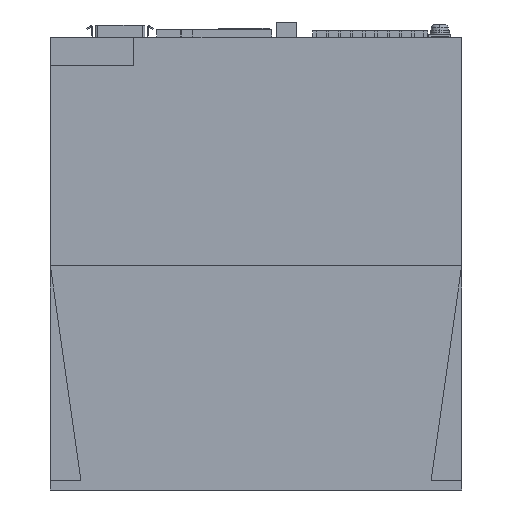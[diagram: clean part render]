
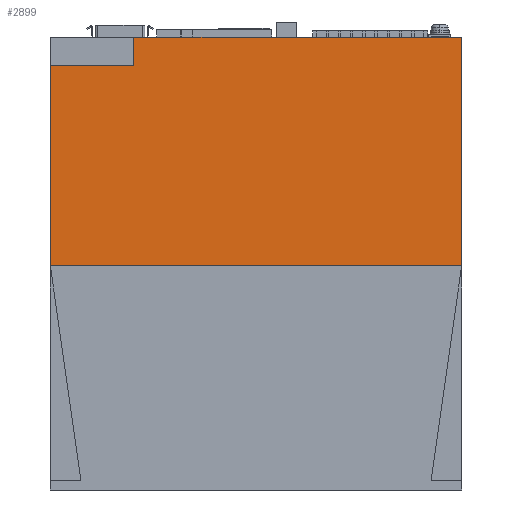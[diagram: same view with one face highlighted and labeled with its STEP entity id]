
A CAD part, left-side view. The second image highlights one B-rep face of the part: STEP entity #2899.
In plain terms, the highlighted planar face has unit normal (-1, 0, 0).
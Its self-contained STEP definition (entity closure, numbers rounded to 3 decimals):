
#1289=DIRECTION('',(0.,-1.,0.));
#1290=VECTOR('',#1289,133.9);
#1291=CARTESIAN_POINT('',(-35.,49.9,185.));
#1292=LINE('',#1291,#1290);
#1609=DIRECTION('',(0.,0.,1.));
#1610=VECTOR('',#1609,93.5);
#1611=CARTESIAN_POINT('',(-35.,-84.,91.5));
#1612=LINE('',#1611,#1610);
#1633=DIRECTION('',(0.,-1.,0.));
#1634=VECTOR('',#1633,168.);
#1635=CARTESIAN_POINT('',(-35.,84.,91.5));
#1636=LINE('',#1635,#1634);
#1637=DIRECTION('',(0.,-1.,0.));
#1638=VECTOR('',#1637,34.1);
#1639=CARTESIAN_POINT('',(-35.,84.,173.5));
#1640=LINE('',#1639,#1638);
#1641=DIRECTION('',(0.,0.,-1.));
#1642=VECTOR('',#1641,11.5);
#1643=CARTESIAN_POINT('',(-35.,49.9,185.));
#1644=LINE('',#1643,#1642);
#1645=DIRECTION('',(0.,0.,-1.));
#1646=VECTOR('',#1645,82.);
#1647=CARTESIAN_POINT('',(-35.,84.,173.5));
#1648=LINE('',#1647,#1646);
#2189=CARTESIAN_POINT('',(-35.,-84.,185.));
#2191=VERTEX_POINT('',#2189);
#2259=CARTESIAN_POINT('',(-35.,49.9,185.));
#2261=VERTEX_POINT('',#2259);
#2265=CARTESIAN_POINT('',(-35.,84.,173.5));
#2266=CARTESIAN_POINT('',(-35.,49.9,173.5));
#2267=VERTEX_POINT('',#2265);
#2268=VERTEX_POINT('',#2266);
#2477=CARTESIAN_POINT('',(-35.,84.,91.5));
#2478=CARTESIAN_POINT('',(-35.,-84.,91.5));
#2479=VERTEX_POINT('',#2477);
#2480=VERTEX_POINT('',#2478);
#2885=CARTESIAN_POINT('',(-35.,84.,0.));
#2886=DIRECTION('',(-1.,0.,0.));
#2887=DIRECTION('',(0.,-1.,0.));
#2888=AXIS2_PLACEMENT_3D('',#2885,#2886,#2887);
#2889=PLANE('',#2888);
#2890=ORIENTED_EDGE('',*,*,#2855,.F.);
#2891=ORIENTED_EDGE('',*,*,#2876,.F.);
#2893=ORIENTED_EDGE('',*,*,#2892,.F.);
#2894=ORIENTED_EDGE('',*,*,#2624,.T.);
#2895=ORIENTED_EDGE('',*,*,#2609,.F.);
#2896=ORIENTED_EDGE('',*,*,#2508,.T.);
#2897=EDGE_LOOP('',(#2890,#2891,#2893,#2894,#2895,#2896));
#2898=FACE_OUTER_BOUND('',#2897,.F.);
#2899=ADVANCED_FACE('',(#2898),#2889,.T.);
#2508=EDGE_CURVE('',#2261,#2191,#1292,.T.);
#2609=EDGE_CURVE('',#2261,#2268,#1644,.T.);
#2624=EDGE_CURVE('',#2267,#2268,#1640,.T.);
#2855=EDGE_CURVE('',#2480,#2191,#1612,.T.);
#2876=EDGE_CURVE('',#2479,#2480,#1636,.T.);
#2892=EDGE_CURVE('',#2267,#2479,#1648,.T.);
